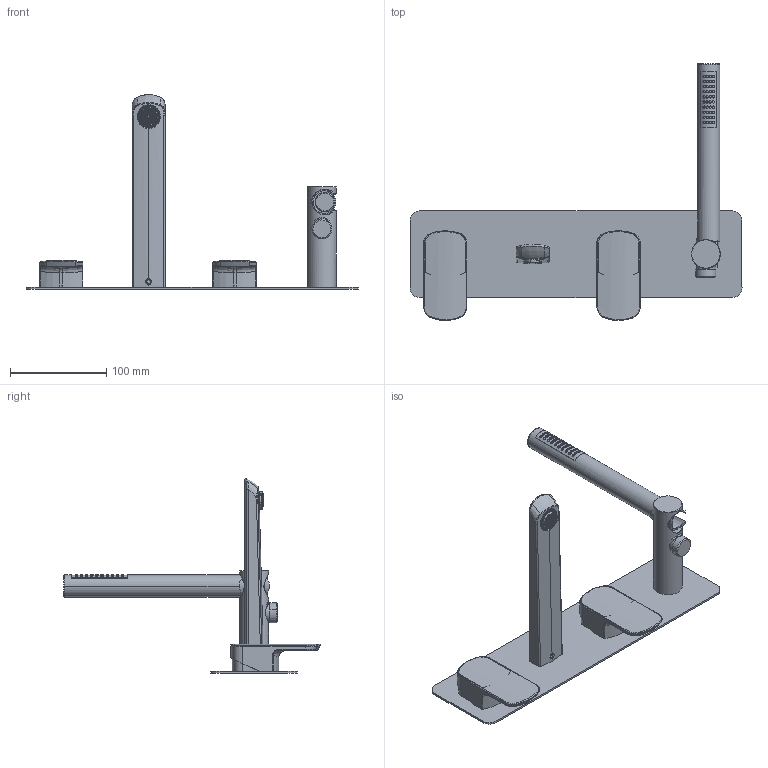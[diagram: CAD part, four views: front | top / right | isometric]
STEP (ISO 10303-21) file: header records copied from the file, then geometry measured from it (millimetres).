
FILE_DESCRIPTION (( 'STEP AP214' ), '1' );
FILE_NAME ('56139710 x architetti.STEP', '2024-10-21T12:01:13', ( '' ), ( '' ), 'SwSTEP 2.0', 'SolidWorks 2020', '' );
FILE_SCHEMA (( 'AUTOMOTIVE_DESIGN' ));
Length unit declared in the file: millimetre
Products named in the file (1): 56139710 x architetti
Bounding box: 345 x 266.93 x 202.3 mm (x, y, z)
Volume: 442427.8 mm3; surface area: 144138.4 mm2
Topology: 3 solids, 19 shells, 2174 faces, 5440 edges, 3394 vertices
Faces by surface type: plane 1196, cylinder 809, bspline 85, cone 73, torus 11
Entity records: 98956 total; most frequent: CARTESIAN_POINT 28863, ORIENTED_EDGE 10880, DIRECTION 7984, EDGE_CURVE 5440, VERTEX_POINT 3394, LINE 3026, VECTOR 3026, AXIS2_PLACEMENT_3D 2479
